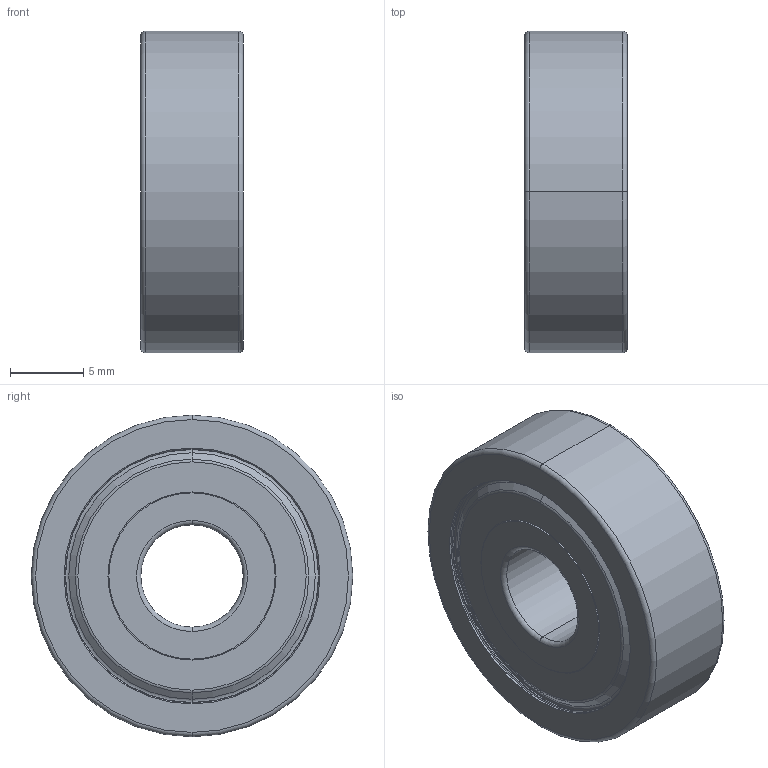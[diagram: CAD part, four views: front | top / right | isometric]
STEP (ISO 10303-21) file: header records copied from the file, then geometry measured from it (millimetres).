
FILE_DESCRIPTION((''),'2;1');
FILE_NAME('627ZZ-EA025','2025-12-19T16:35:43',('qinghui.yi'),(''),'CREO PARAMETRIC BY PTC INC, 2019164','CREO PARAMETRIC BY PTC INC, 2019164','');
FILE_SCHEMA(('CONFIG_CONTROL_DESIGN','SHAPE_APPEARANCE_LAYERS_GROUPS'));
Length unit declared in the file: millimetre
Products named in the file (1): 627ZZ-EA025
Bounding box: 7 x 22 x 22 mm (x, y, z)
Volume: 1439.9 mm3; surface area: 2319.8 mm2
Topology: 2 solids, 2 shells, 88 faces, 178 edges, 104 vertices
Faces by surface type: torus 34, cylinder 24, cone 16, plane 14
Entity records: 2575 total; most frequent: DIRECTION 492, CARTESIAN_POINT 370, ORIENTED_EDGE 356, AXIS2_PLACEMENT_3D 226, COLOUR_RGB 196, EDGE_CURVE 178, CIRCLE 138, VERTEX_POINT 104
